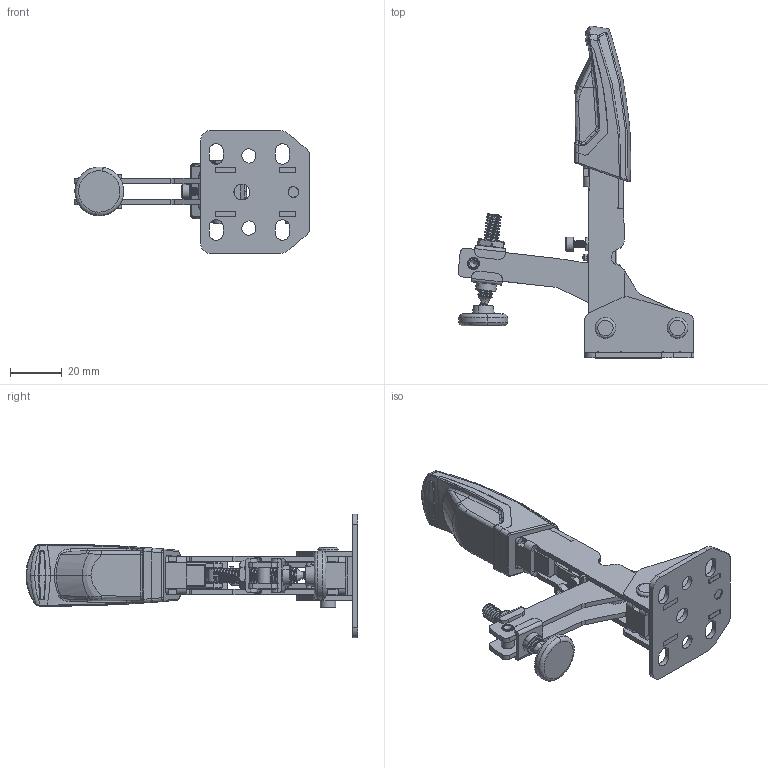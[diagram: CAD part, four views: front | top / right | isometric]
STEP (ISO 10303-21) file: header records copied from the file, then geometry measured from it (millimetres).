
FILE_DESCRIPTION( ('This file contains a STEP AP42 implementation' ,'as created by ZW3D STEP Interface translator.') ,'2;1' );
FILE_NAME( 'STC-VH20.stp' ,'20 7 2.115322', (''), ('ZWCAD Software Co.'), 'Version 1.0', 'ZW3D to STEP translator', '' );
FILE_SCHEMA(('AUTOMOTIVE_DESIGN'));
Length unit declared in the file: millimetre
Products named in the file (34): 0; 3205252e_STC-VH20; 3101637b; 3008731c_inquiry; 3008732b; 3008733a; 3101638b_Spannarm kp funktion; 3008734b; 3008821a; 3008735b; 3008587b; 3008589a; 3008588a; 3008570b; 3008586a; 3008736a; 3008591a; Hebel funktion; 3008737a; 3008738a; 3008739a; 3008740a; 3008741a; 3008744a; 3008743a; 3008742c; 3008745c; 3008746b; 3008575a; 3008822a; 3008749a_Drehfeder S1; 3008749a_Drehfeder S2; 3008768a_Druckfeder einbau; 3008590a
Assembly tree (36 placements, depth 3):
  0
  3205252e_STC-VH20
    3101637b
      3008731c_inquiry
      3008732b  x2
    3008733a  x2
    3101638b_Spannarm kp funktion
      3008734b  x2
      3008821a
      3008735b
      3008587b
      3008589a
      3008588a
      3008570b
      3008586a
    3008736a
    3008591a
    Hebel funktion
      3008737a
      3008738a
      3008739a
      3008740a
    3008741a
    3008744a
    3008743a
    3008742c
    3008745c
    3008746b
    3008575a
    3008822a
    3008749a_Drehfeder S1
    3008749a_Drehfeder S2
    3008768a_Druckfeder einbau  x2
    3008590a
Bounding box: 91.57 x 128.86 x 48 mm (x, y, z)
Volume: 38560 mm3; surface area: 45579 mm2
Topology: 34 solids, 34 shells, 1434 faces, 3574 edges, 2186 vertices
Faces by surface type: bspline 1434
Entity records: 120248 total; most frequent: CARTESIAN_POINT 98361, ORIENTED_EDGE 6782, EDGE_CURVE 3391, B_SPLINE_CURVE_WITH_KNOTS 2404, VERTEX_POINT 2082, EDGE_LOOP 1463, FACE_OUTER_BOUND 1370, ADVANCED_FACE 1370
